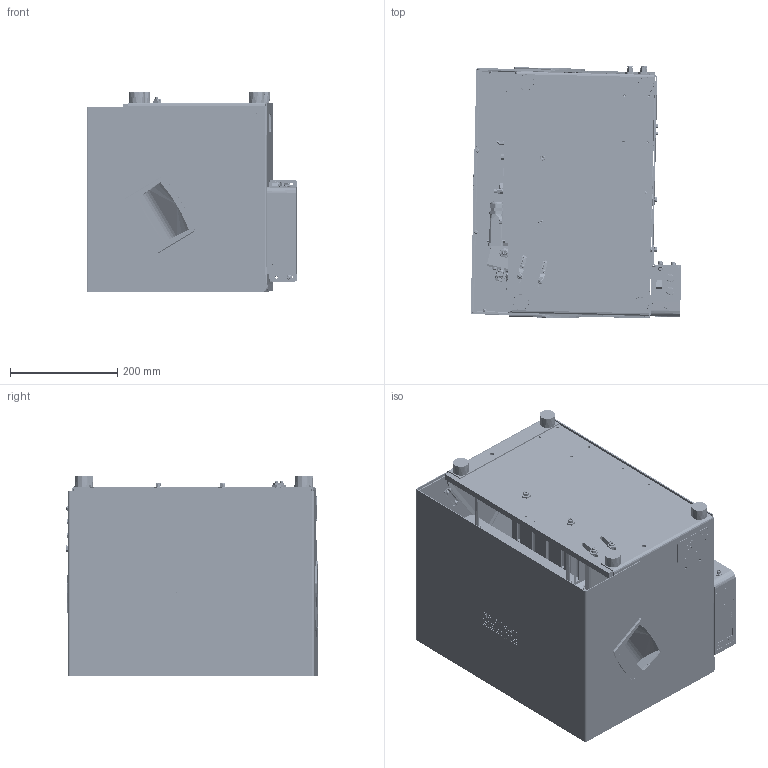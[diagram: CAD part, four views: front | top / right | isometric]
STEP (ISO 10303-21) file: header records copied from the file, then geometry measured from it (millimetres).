
FILE_DESCRIPTION(/* description */ ('© Copyright 2019 – Urheberrechtshinweis Diese CAD-Daten sind urheberrechtlich geschützt. Das Urheberrecht liegt, soweit nicht ausdrücklich anders gekennzeichnet, bei Stöger Automation GmbH. Bitte fragen Sie uns, falls Sie die CAD-Daten vervielfältigen oder','CAx-IF Rec.Pracs.---Representation and Presentation of Product Manufacturing Information (PMI)---4.0---2014-10-13'),/* implementation_level */ '2;1');
FILE_NAME(/* name */ 'H:\00_0 Arbeiten für Marketing\581417\3D_Step_file_STF8010 ELK.stp',/* time_stamp */ '2020-06-09T09:38:18+02:00',/* author */ ('Stöger Automation GmbH'),/* organization */ ('Stöger Automation GmbH'),/* preprocessor_version */ 'ST-DEVELOPER v17',/* originating_system */ 'Autodesk Inventor 2018',/* authorisation */ '');
FILE_SCHEMA (('AP242_MANAGED_MODEL_BASED_3D_ENGINEERING_MIM_LF { 1 0 10303 442 1 1 4 }'));
Products named in the file (1): 581417
Bounding box: 392.45 x 471.02 x 372 mm (x, y, z)
Volume: 8455354.6 mm3; surface area: 3059219.7 mm2
Topology: 21 solids, 123 shells, 11293 faces, 30276 edges, 19764 vertices
Faces by surface type: plane 5826, cylinder 2605, bspline 1450, cone 820, torus 449, sphere 143
Full cylindrical faces by diameter (mm): 0.5 x1, 0.65 x10, 0.8 x3, 1 x1, 1.2 x2, 1.5 x6, 1.8 x8, 1.9 x4, 2 x3, 2.2 x4, 2.459 x5, 2.5 x2, 2.65 x2, 2.8 x1, 2.9 x6, 3 x27, 3.03 x2, 3.05 x1, 3.1 x2, 3.2 x2, 3.242 x32, 3.387 x2, 3.4 x2, 3.48 x2, 3.5 x1, 3.6 x3, 3.8 x2, 3.99 x4, 4 x60, 4.019 x6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
Entity records: 407224 total; most frequent: CARTESIAN_POINT 119445, ORIENTED_EDGE 60132, DIRECTION 54047, EDGE_CURVE 30066, VERTEX_POINT 19764, AXIS2_PLACEMENT_3D 18830, LINE 16387, VECTOR 16387
